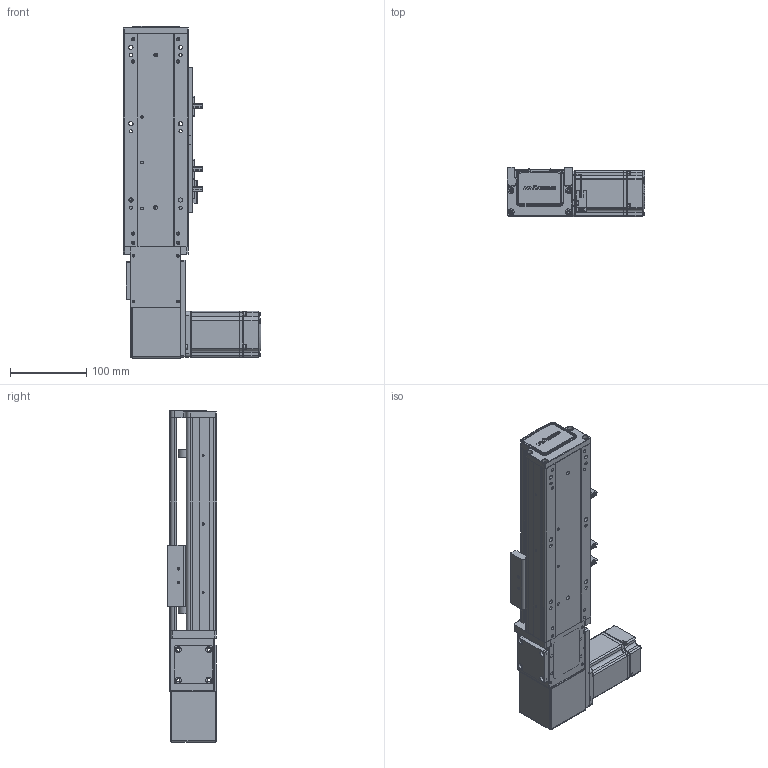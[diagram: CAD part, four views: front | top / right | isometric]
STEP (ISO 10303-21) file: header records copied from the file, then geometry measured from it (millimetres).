
FILE_DESCRIPTION (( 'STEP AP203' ), '1' );
FILE_NAME ('RY80-T-300-RK.SLDASM_100.step', '2021-03-01T02:06:16', ( '盈信电脑' ), ( '东莞市道滘镇水果街19号' ), 'SwSTEP 2.0', 'SolidWorks 2012', '' );
FILE_SCHEMA (( 'CONFIG_CONTROL_DESIGN' ));
Length unit declared in the file: millimetre
Products named in the file (20): 滅袉蝶18-10; RY100-T粣創揤踡裔; RY80-T肮祭謫俋欶; RY80-T-300-RK.SLDASM_100; RY80-T-M4蹟翐; RY80-T肮祭湍揤輸2; RY80-T粣創揤踡輸; RY80-T翋肮祭謫裔啣; RY80-T肮祭湍揤輸1; RY80-T-翋肮祭謫釱; RY80-T萇儂假蚾啣; 1; 侂狟200W萇儂; 覜茼ん672; RY80俋离覜茼え; RY80-T肮祭謫臏賑輸; RY80-T綴裔啣; 672嫖萇羲壽假蚾釱; RY80-T-300-RK倰第奻裔啣_100; RY80-T-300-RK倰第菁釱_100
Assembly tree (25 placements, depth 3):
  RY80-T-300-RK.SLDASM_100
    RY80-T-300-RK倰第菁釱_100
    RY80-T肮祭謫臏賑輸
    RY80-T-300-RK倰第奻裔啣_100
    RY80-T綴裔啣
    672嫖萇羲壽假蚾釱  x2
    覜茼ん672  x3
    RY80俋离覜茼え
    侂狟200W萇儂
      1
    RY80-T-翋肮祭謫釱
    RY80-T萇儂假蚾啣
    RY80-T肮祭湍揤輸1
    RY80-T肮祭湍揤輸2
    RY80-T粣創揤踡輸
    RY80-T-M4蹟翐  x2
    RY80-T翋肮祭謫裔啣  x2
    RY80-T肮祭謫俋欶
    滅袉蝶18-10  x2
    RY100-T粣創揤踡裔
Bounding box: 180 x 65 x 435 mm (x, y, z)
Volume: 1028778.4 mm3; surface area: 390489.7 mm2
Topology: 24 solids, 24 shells, 2316 faces, 6327 edges, 4109 vertices
Faces by surface type: plane 1302, cylinder 814, cone 144, bspline 56
Entity records: 70794 total; most frequent: CARTESIAN_POINT 16009, ORIENTED_EDGE 11098, DIRECTION 10630, EDGE_CURVE 5549, VERTEX_POINT 3650, LINE 3584, VECTOR 3584, AXIS2_PLACEMENT_3D 3523
